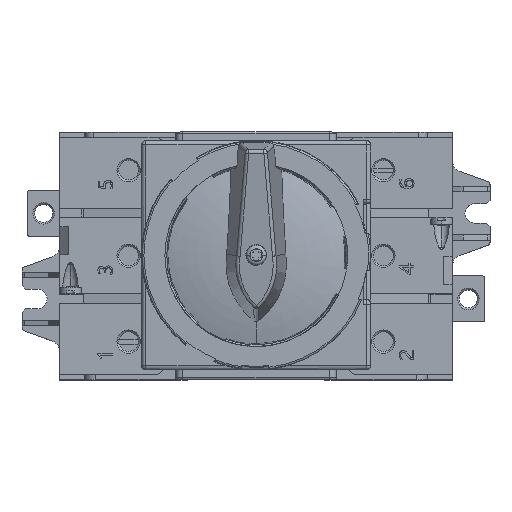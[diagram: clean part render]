
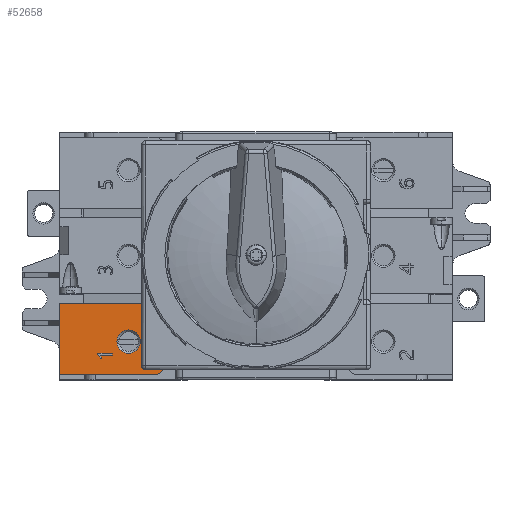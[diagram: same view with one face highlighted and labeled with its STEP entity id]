
A CAD part, top view. The second image highlights one B-rep face of the part: STEP entity #52658.
In plain terms, the highlighted planar face has unit normal (0, 0, 1).
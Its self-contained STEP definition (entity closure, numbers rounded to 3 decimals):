
#236 = DIRECTION ( 'NONE',  ( 0., 0., -1. ) ) ;
#522 = FACE_BOUND ( 'NONE', #88797, .T. ) ;
#1318 = DIRECTION ( 'NONE',  ( 0., 0., 1. ) ) ;
#1738 = CARTESIAN_POINT ( 'NONE',  ( -30.974, -44.502, 50.024 ) ) ;
#2467 = LINE ( 'NONE', #70850, #59950 ) ;
#4079 = CARTESIAN_POINT ( 'NONE',  ( -37.974, 4.692, 50.024 ) ) ;
#5055 = LINE ( 'NONE', #32235, #12277 ) ;
#7185 = CIRCLE ( 'NONE', #40752, 3.25 ) ;
#8291 = CARTESIAN_POINT ( 'NONE',  ( -55.569, -59.843, 50.024 ) ) ;
#8419 = ORIENTED_EDGE ( 'NONE', *, *, #8720, .T. ) ;
#8720 = EDGE_CURVE ( 'NONE', #54854, #74908, #49191, .T. ) ;
#8915 = EDGE_CURVE ( 'NONE', #65497, #143404, #54371, .T. ) ;
#10295 = EDGE_CURVE ( 'NONE', #64923, #143404, #59347, .T. ) ;
#10583 = DIRECTION ( 'NONE',  ( 1., 0., 0. ) ) ;
#12277 = VECTOR ( 'NONE', #19092, 1000. ) ;
#13834 = EDGE_CURVE ( 'NONE', #85086, #45889, #2467, .T. ) ;
#13869 = EDGE_CURVE ( 'NONE', #54854, #65497, #5055, .T. ) ;
#14503 = CARTESIAN_POINT ( 'NONE',  ( -39.974, -46.502, 50.024 ) ) ;
#14587 = EDGE_LOOP ( 'NONE', ( #58642, #160165 ) ) ;
#18454 = ORIENTED_EDGE ( 'NONE', *, *, #117745, .F. ) ;
#19092 = DIRECTION ( 'NONE',  ( 0., 1., 0. ) ) ;
#19239 = VECTOR ( 'NONE', #152812, 1000. ) ;
#19463 = ORIENTED_EDGE ( 'NONE', *, *, #138596, .F. ) ;
#24359 = AXIS2_PLACEMENT_3D ( 'NONE', #160866, #94298, #147729 ) ;
#24594 = CARTESIAN_POINT ( 'NONE',  ( -55.074, -59.843, 50.024 ) ) ;
#29297 = B_SPLINE_CURVE_WITH_KNOTS ( 'NONE', 3,
 ( #49667, #154815, #35650, #141673, #129403, #103099 ),
 .UNSPECIFIED., .F., .F.,
 ( 4, 2, 4 ),
 ( 0., 0.498, 1. ),
 .UNSPECIFIED. ) ;
#32235 = CARTESIAN_POINT ( 'NONE',  ( -66.843, -46.202, 50.024 ) ) ;
#32972 = LINE ( 'NONE', #4079, #121225 ) ;
#33660 = ORIENTED_EDGE ( 'NONE', *, *, #144159, .F. ) ;
#34526 = CARTESIAN_POINT ( 'NONE',  ( -55.322, -59.843, 50.024 ) ) ;
#35650 = CARTESIAN_POINT ( 'NONE',  ( -55.182, -59.508, 50.024 ) ) ;
#37479 = DIRECTION ( 'NONE',  ( 0., -1., 0. ) ) ;
#38136 = AXIS2_PLACEMENT_3D ( 'NONE', #138938, #82943, #110894 ) ;
#38927 = CARTESIAN_POINT ( 'NONE',  ( -52.124, -58.417, 50.024 ) ) ;
#39726 = CARTESIAN_POINT ( 'NONE',  ( -47.624, -55.13, 50.024 ) ) ;
#40091 = CARTESIAN_POINT ( 'NONE',  ( -55.978, -58.923, 50.024 ) ) ;
#40752 = AXIS2_PLACEMENT_3D ( 'NONE', #77358, #116725, #103617 ) ;
#43483 = CARTESIAN_POINT ( 'NONE',  ( -50.874, -55.13, 50.024 ) ) ;
#43644 = CARTESIAN_POINT ( 'NONE',  ( -66.843, -64.258, 50.024 ) ) ;
#44309 = CARTESIAN_POINT ( 'NONE',  ( -56.213, -58.608, 50.024 ) ) ;
#45650 = DIRECTION ( 'NONE',  ( 1., 0., 0. ) ) ;
#45889 = VERTEX_POINT ( 'NONE', #38927 ) ;
#47853 = VECTOR ( 'NONE', #10583, 1000. ) ;
#49191 = LINE ( 'NONE', #50054, #47853 ) ;
#49667 = CARTESIAN_POINT ( 'NONE',  ( -55.074, -59.843, 50.024 ) ) ;
#50054 = CARTESIAN_POINT ( 'NONE',  ( -30.974, -64.258, 50.024 ) ) ;
#50616 = AXIS2_PLACEMENT_3D ( 'NONE', #39726, #236, #79182 ) ;
#51524 = VERTEX_POINT ( 'NONE', #158024 ) ;
#52658 = ADVANCED_FACE ( 'NONE', ( #522, #77733, #158274 ), #117112, .F. ) ;
#53060 = EDGE_CURVE ( 'NONE', #74908, #113063, #150050, .T. ) ;
#54371 = LINE ( 'NONE', #1738, #89972 ) ;
#54854 = VERTEX_POINT ( 'NONE', #43644 ) ;
#55674 = DIRECTION ( 'NONE',  ( 0., 1., 0. ) ) ;
#56240 = CIRCLE ( 'NONE', #50616, 3.25 ) ;
#58642 = ORIENTED_EDGE ( 'NONE', *, *, #70515, .T. ) ;
#58768 = ORIENTED_EDGE ( 'NONE', *, *, #53060, .T. ) ;
#59347 = CIRCLE ( 'NONE', #157229, 2. ) ;
#59950 = VECTOR ( 'NONE', #161931, 1000. ) ;
#59969 = LINE ( 'NONE', #34526, #19239 ) ;
#64923 = VERTEX_POINT ( 'NONE', #128682 ) ;
#64962 = CARTESIAN_POINT ( 'NONE',  ( -56.213, -58.417, 50.024 ) ) ;
#65497 = VERTEX_POINT ( 'NONE', #87419 ) ;
#67238 = LINE ( 'NONE', #144343, #117612 ) ;
#70162 = ORIENTED_EDGE ( 'NONE', *, *, #86119, .F. ) ;
#70515 = EDGE_CURVE ( 'NONE', #96983, #123742, #7185, .T. ) ;
#70850 = CARTESIAN_POINT ( 'NONE',  ( -52.124, -58.668, 50.024 ) ) ;
#74908 = VERTEX_POINT ( 'NONE', #156088 ) ;
#75704 = VERTEX_POINT ( 'NONE', #44309 ) ;
#75975 = VERTEX_POINT ( 'NONE', #8291 ) ;
#76967 = CARTESIAN_POINT ( 'NONE',  ( -56.099, -58.737, 50.024 ) ) ;
#77358 = CARTESIAN_POINT ( 'NONE',  ( -47.624, -55.13, 50.024 ) ) ;
#77733 = FACE_BOUND ( 'NONE', #14587, .T. ) ;
#78180 = EDGE_LOOP ( 'NONE', ( #58768, #70162, #133009, #109094, #132906, #8419 ) ) ;
#79182 = DIRECTION ( 'NONE',  ( 0., 1., 0. ) ) ;
#79913 = VERTEX_POINT ( 'NONE', #24594 ) ;
#82943 = DIRECTION ( 'NONE',  ( 0., 0., 1. ) ) ;
#85086 = VERTEX_POINT ( 'NONE', #85990 ) ;
#85990 = CARTESIAN_POINT ( 'NONE',  ( -52.124, -58.918, 50.024 ) ) ;
#86119 = EDGE_CURVE ( 'NONE', #64923, #113063, #32972, .T. ) ;
#87419 = CARTESIAN_POINT ( 'NONE',  ( -66.843, -44.502, 50.024 ) ) ;
#88797 = EDGE_LOOP ( 'NONE', ( #161599, #18454, #136265, #33660, #127191, #19463, #149802 ) ) ;
#89972 = VECTOR ( 'NONE', #123539, 1000. ) ;
#91842 = EDGE_CURVE ( 'NONE', #154753, #75704, #67238, .T. ) ;
#93150 = EDGE_CURVE ( 'NONE', #123742, #96983, #56240, .T. ) ;
#94298 = DIRECTION ( 'NONE',  ( 0., 0., -1. ) ) ;
#96492 = LINE ( 'NONE', #135074, #159744 ) ;
#96983 = VERTEX_POINT ( 'NONE', #106204 ) ;
#101211 = B_SPLINE_CURVE_WITH_KNOTS ( 'NONE', 3,
 ( #160083, #76967, #40091, #104071, #105785, #159216 ),
 .UNSPECIFIED., .F., .F.,
 ( 4, 2, 4 ),
 ( 0., 0.5, 1. ),
 .UNSPECIFIED. ) ;
#103099 = CARTESIAN_POINT ( 'NONE',  ( -55.546, -58.918, 50.024 ) ) ;
#103617 = DIRECTION ( 'NONE',  ( 0., 1., 0. ) ) ;
#104071 = CARTESIAN_POINT ( 'NONE',  ( -55.72, -59.404, 50.024 ) ) ;
#105785 = CARTESIAN_POINT ( 'NONE',  ( -55.628, -59.631, 50.024 ) ) ;
#106204 = CARTESIAN_POINT ( 'NONE',  ( -44.374, -55.13, 50.024 ) ) ;
#109094 = ORIENTED_EDGE ( 'NONE', *, *, #8915, .F. ) ;
#110894 = DIRECTION ( 'NONE',  ( 0., -1., 0. ) ) ;
#113063 = VERTEX_POINT ( 'NONE', #139875 ) ;
#116725 = DIRECTION ( 'NONE',  ( 0., 0., -1. ) ) ;
#117112 = PLANE ( 'NONE',  #24359 ) ;
#117612 = VECTOR ( 'NONE', #37479, 1000. ) ;
#117745 = EDGE_CURVE ( 'NONE', #79913, #51524, #29297, .T. ) ;
#121225 = VECTOR ( 'NONE', #124140, 1000. ) ;
#121267 = DIRECTION ( 'NONE',  ( -1., 0., 0. ) ) ;
#121628 = EDGE_CURVE ( 'NONE', #75975, #79913, #59969, .T. ) ;
#122120 = CARTESIAN_POINT ( 'NONE',  ( -54.168, -58.417, 50.024 ) ) ;
#123539 = DIRECTION ( 'NONE',  ( 1., 0., 0. ) ) ;
#123742 = VERTEX_POINT ( 'NONE', #43483 ) ;
#124140 = DIRECTION ( 'NONE',  ( 0., -1., 0. ) ) ;
#127191 = ORIENTED_EDGE ( 'NONE', *, *, #91842, .F. ) ;
#128682 = CARTESIAN_POINT ( 'NONE',  ( -37.974, -46.502, 50.024 ) ) ;
#129403 = CARTESIAN_POINT ( 'NONE',  ( -55.467, -58.997, 50.024 ) ) ;
#131681 = VECTOR ( 'NONE', #121267, 1000. ) ;
#132906 = ORIENTED_EDGE ( 'NONE', *, *, #13869, .F. ) ;
#133009 = ORIENTED_EDGE ( 'NONE', *, *, #10295, .T. ) ;
#135074 = CARTESIAN_POINT ( 'NONE',  ( -53.835, -58.918, 50.024 ) ) ;
#136265 = ORIENTED_EDGE ( 'NONE', *, *, #121628, .F. ) ;
#138596 = EDGE_CURVE ( 'NONE', #45889, #154753, #160680, .T. ) ;
#138938 = CARTESIAN_POINT ( 'NONE',  ( -39.974, -62.258, 50.024 ) ) ;
#139875 = CARTESIAN_POINT ( 'NONE',  ( -37.974, -62.258, 50.024 ) ) ;
#141673 = CARTESIAN_POINT ( 'NONE',  ( -55.378, -59.131, 50.024 ) ) ;
#141898 = EDGE_CURVE ( 'NONE', #51524, #85086, #96492, .T. ) ;
#143404 = VERTEX_POINT ( 'NONE', #162220 ) ;
#144159 = EDGE_CURVE ( 'NONE', #75704, #75975, #101211, .T. ) ;
#144343 = CARTESIAN_POINT ( 'NONE',  ( -56.213, -58.513, 50.024 ) ) ;
#147729 = DIRECTION ( 'NONE',  ( 0., -1., 0. ) ) ;
#149802 = ORIENTED_EDGE ( 'NONE', *, *, #13834, .F. ) ;
#150050 = CIRCLE ( 'NONE', #38136, 2. ) ;
#152812 = DIRECTION ( 'NONE',  ( 1., 0., 0. ) ) ;
#154753 = VERTEX_POINT ( 'NONE', #64962 ) ;
#154815 = CARTESIAN_POINT ( 'NONE',  ( -55.113, -59.682, 50.024 ) ) ;
#156088 = CARTESIAN_POINT ( 'NONE',  ( -39.974, -64.258, 50.024 ) ) ;
#157229 = AXIS2_PLACEMENT_3D ( 'NONE', #14503, #1318, #55674 ) ;
#158024 = CARTESIAN_POINT ( 'NONE',  ( -55.546, -58.918, 50.024 ) ) ;
#158274 = FACE_OUTER_BOUND ( 'NONE', #78180, .T. ) ;
#159216 = CARTESIAN_POINT ( 'NONE',  ( -55.569, -59.843, 50.024 ) ) ;
#159744 = VECTOR ( 'NONE', #45650, 1000. ) ;
#160083 = CARTESIAN_POINT ( 'NONE',  ( -56.213, -58.608, 50.024 ) ) ;
#160165 = ORIENTED_EDGE ( 'NONE', *, *, #93150, .T. ) ;
#160680 = LINE ( 'NONE', #122120, #131681 ) ;
#160866 = CARTESIAN_POINT ( 'NONE',  ( -30.974, -12.633, 50.024 ) ) ;
#161599 = ORIENTED_EDGE ( 'NONE', *, *, #141898, .F. ) ;
#161931 = DIRECTION ( 'NONE',  ( 0., 1., 0. ) ) ;
#162220 = CARTESIAN_POINT ( 'NONE',  ( -39.974, -44.502, 50.024 ) ) ;
